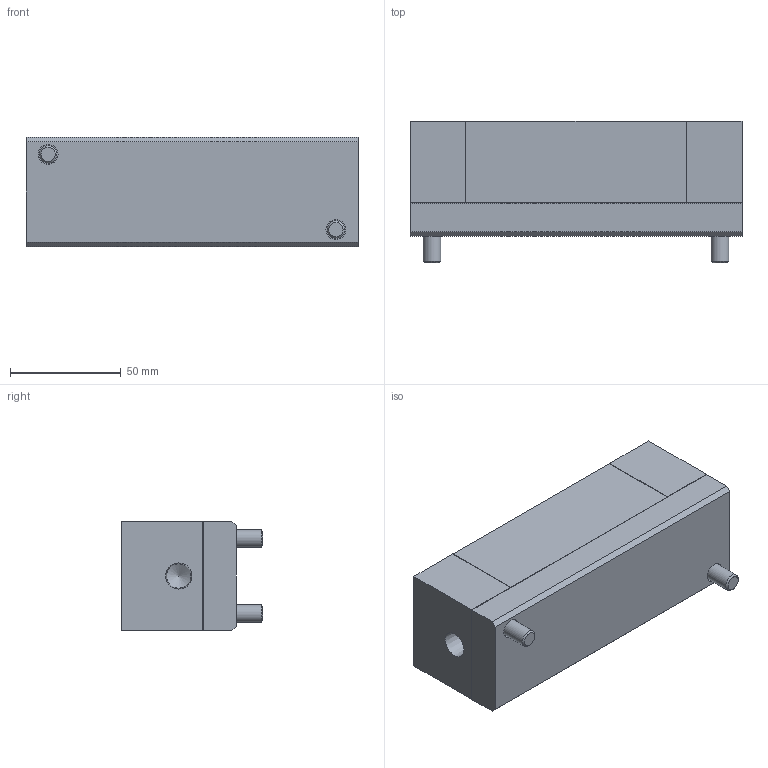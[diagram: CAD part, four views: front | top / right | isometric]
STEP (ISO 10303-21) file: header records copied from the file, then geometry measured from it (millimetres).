
FILE_DESCRIPTION( ( 'STEP AP214' ), '1' );
FILE_NAME( 'Z:/01-DesignData/標準品図面/★Web／カタログ用データ(型式別 3点Set)/069-ISR50S 系/ISR-50S-150-A_0_.stp', '2022-05-10T00:20:38', ( 'License CC BY-ND 4.0' ), ( 'CADENAS' ), ' ', 'PARTsolutions', ' ' );
FILE_SCHEMA( ( 'AUTOMOTIVE_DESIGN { 1 0 10303 214 1 1 1 1 }' ) );
Length unit declared in the file: millimetre
Products named in the file (5): ISR-50S-150-A(0); _ISR-50S-150-A-Body; _ISR-50S-150-A-Box; _ISR-50S-150-A(0)-Ball; _ISR-50S-150-A-screw
Assembly tree (6 placements, depth 2):
  ISR-50S-150-A(0)
    _ISR-50S-150-A-Body
    _ISR-50S-150-A-Box
    _ISR-50S-150-A(0)-Ball  x2
    _ISR-50S-150-A-screw  x2
Bounding box: 150 x 64 x 49.5 mm (x, y, z)
Volume: 366802.5 mm3; surface area: 85294.7 mm2
Topology: 6 solids, 6 shells, 230 faces, 494 edges, 302 vertices
Faces by surface type: plane 174, cylinder 30, cone 16, torus 8, sphere 2
Full cylindrical faces by diameter (mm): 8 x2, 8.5 x4, 9 x2, 9.5 x4, 13 x4, 14.5 x4, 33 x2, 38.5 x2, 39 x2, 42 x4
Entity records: 6672 total; most frequent: DIRECTION 888, CARTESIAN_POINT 831, ORIENTED_EDGE 740, EDGE_CURVE 370, AXIS2_PLACEMENT_3D 312, EDGE_LOOP 270, LINE 264, VECTOR 264
